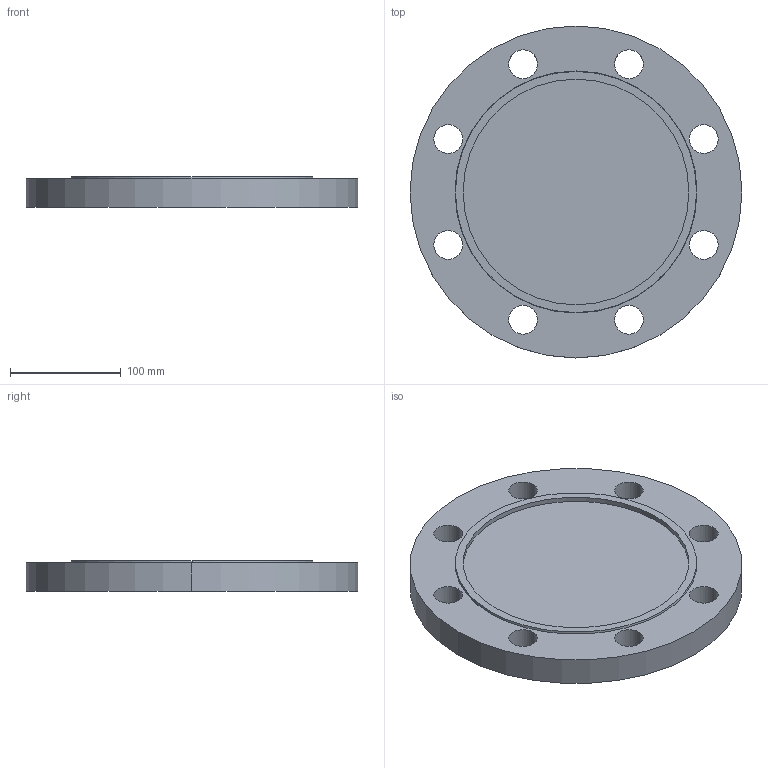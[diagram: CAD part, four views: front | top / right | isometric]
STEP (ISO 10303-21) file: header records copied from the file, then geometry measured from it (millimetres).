
FILE_DESCRIPTION (( 'STEP AP214' ), '1' );
FILE_NAME ('PN40 DN150 Type 05 - Type F Face.STEP', '2019-01-05T00:18:07', ( '' ), ( '' ), 'SwSTEP 2.0', 'SolidWorks 2019', '' );
FILE_SCHEMA (( 'AUTOMOTIVE_DESIGN' ));
Length unit declared in the file: millimetre
Products named in the file (1): PN40 DN150 Type 05 - Type F Face
Bounding box: 300 x 300 x 28 mm (x, y, z)
Volume: 1655207.7 mm3; surface area: 178406.1 mm2
Topology: 1 solids, 1 shells, 26 faces, 66 edges, 44 vertices
Faces by surface type: cylinder 20, plane 4, cone 2
Entity records: 880 total; most frequent: DIRECTION 164, CARTESIAN_POINT 137, ORIENTED_EDGE 132, AXIS2_PLACEMENT_3D 71, EDGE_CURVE 66, CIRCLE 44, EDGE_LOOP 44, VERTEX_POINT 44
